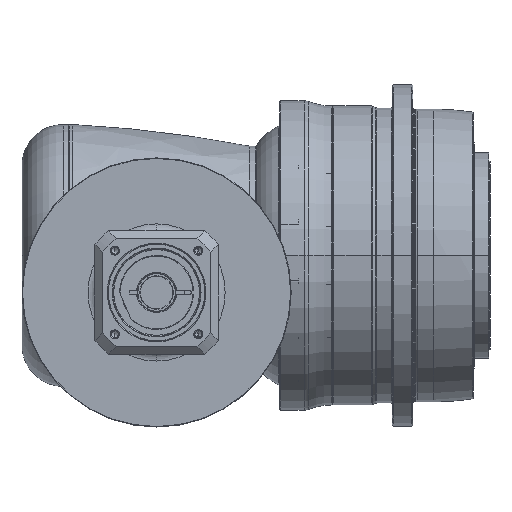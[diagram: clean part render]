
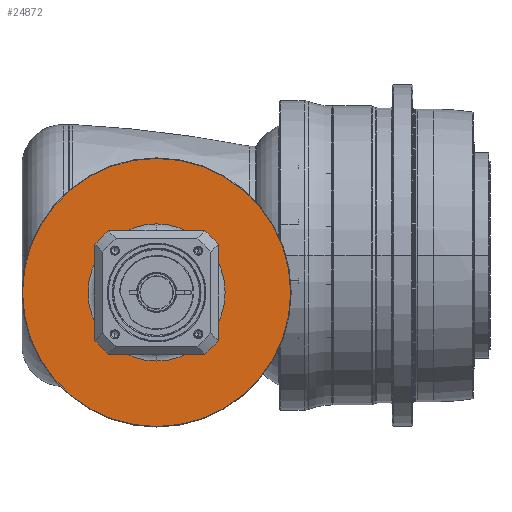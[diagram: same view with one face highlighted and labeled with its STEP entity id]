
A CAD part, front view. The second image highlights one B-rep face of the part: STEP entity #24872.
In plain terms, the highlighted planar face has unit normal (0, -1, 0) as drawn and (1, 0, 0) by its records, which use the part's own axes.
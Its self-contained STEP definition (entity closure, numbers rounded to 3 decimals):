
#22940=CARTESIAN_POINT('',(-11.5,0.,0.));
#22941=DIRECTION('',(-1.,0.,0.));
#22942=DIRECTION('',(0.,-1.,0.));
#22943=AXIS2_PLACEMENT_3D('',#22940,#22941,#22942);
#22945=CARTESIAN_POINT('',(-11.5,0.,0.));
#22946=DIRECTION('',(-1.,0.,0.));
#22947=DIRECTION('',(0.,1.,0.));
#22948=AXIS2_PLACEMENT_3D('',#22945,#22946,#22947);
#22950=CARTESIAN_POINT('',(-11.5,0.,0.));
#22951=DIRECTION('',(-1.,0.,0.));
#22952=DIRECTION('',(0.,-1.,0.));
#22953=AXIS2_PLACEMENT_3D('',#22950,#22951,#22952);
#22955=CARTESIAN_POINT('',(-11.5,0.,0.));
#22956=DIRECTION('',(-1.,0.,0.));
#22957=DIRECTION('',(0.,1.,0.));
#22958=AXIS2_PLACEMENT_3D('',#22955,#22956,#22957);
#23573=CARTESIAN_POINT('',(-11.5,-130.5,0.));
#23574=CARTESIAN_POINT('',(-11.5,130.5,0.));
#23575=VERTEX_POINT('',#23573);
#23576=VERTEX_POINT('',#23574);
#23655=CARTESIAN_POINT('',(-11.5,-66.75,0.));
#23656=CARTESIAN_POINT('',(-11.5,66.75,0.));
#23657=VERTEX_POINT('',#23655);
#23658=VERTEX_POINT('',#23656);
#24857=CARTESIAN_POINT('',(-11.5,0.,0.));
#24858=DIRECTION('',(1.,0.,0.));
#24859=DIRECTION('',(0.,-1.,0.));
#24860=AXIS2_PLACEMENT_3D('',#24857,#24858,#24859);
#24861=PLANE('',#24860);
#24862=ORIENTED_EDGE('',*,*,#24813,.T.);
#24863=ORIENTED_EDGE('',*,*,#24798,.T.);
#24864=EDGE_LOOP('',(#24862,#24863));
#24865=FACE_OUTER_BOUND('',#24864,.F.);
#24867=ORIENTED_EDGE('',*,*,#24866,.F.);
#24869=ORIENTED_EDGE('',*,*,#24868,.F.);
#24870=EDGE_LOOP('',(#24867,#24869));
#24871=FACE_BOUND('',#24870,.F.);
#24872=ADVANCED_FACE('',(#24865,#24871),#24861,.T.);
#22944=CIRCLE('',#22943,66.75);
#22949=CIRCLE('',#22948,66.75);
#22954=CIRCLE('',#22953,130.5);
#22959=CIRCLE('',#22958,130.5);
#24798=EDGE_CURVE('',#23576,#23575,#22959,.T.);
#24813=EDGE_CURVE('',#23575,#23576,#22954,.T.);
#24866=EDGE_CURVE('',#23657,#23658,#22944,.T.);
#24868=EDGE_CURVE('',#23658,#23657,#22949,.T.);
